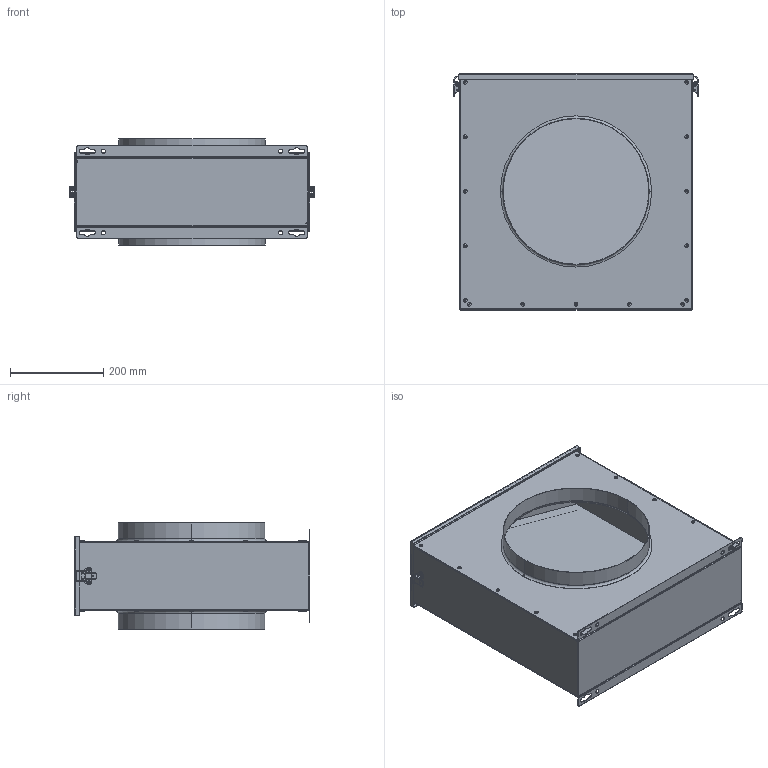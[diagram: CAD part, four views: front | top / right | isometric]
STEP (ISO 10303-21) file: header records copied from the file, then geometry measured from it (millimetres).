
FILE_DESCRIPTION (( 'STEP AP203' ), '1' );
FILE_NAME ('112834-01_FV315_step.step', '2020-08-26T10:53:47', ( '' ), ( '' ), 'SwSTEP 2.0', 'SolidWorks 2017', '' );
FILE_SCHEMA (( 'CONFIG_CONTROL_DESIGN' ));
Length unit declared in the file: millimetre
Products named in the file (1): 112834-01_FV315_step
Bounding box: 527.59 x 507 x 228 mm (x, y, z)
Surface area: 2085024.8 mm2 (no closed solid volume)
Topology: 0 solids, 56 shells, 481 faces, 1561 edges, 1086 vertices
Faces by surface type: cylinder 229, plane 126, torus 78, bspline 48
Entity records: 18581 total; most frequent: CARTESIAN_POINT 4463, DIRECTION 3245, ORIENTED_EDGE 2456, EDGE_CURVE 1561, AXIS2_PLACEMENT_3D 1304, VERTEX_POINT 1086, CIRCLE 870, LINE 637
